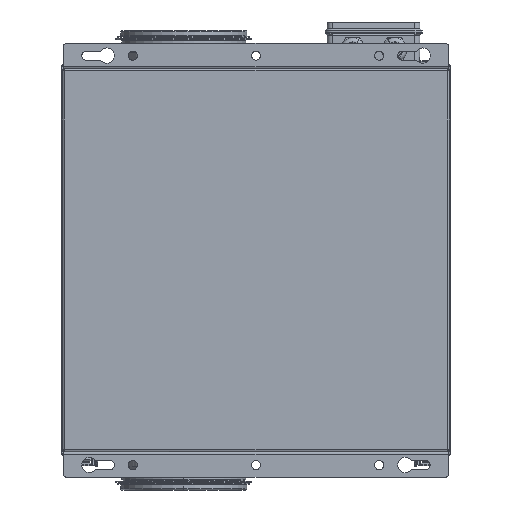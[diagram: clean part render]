
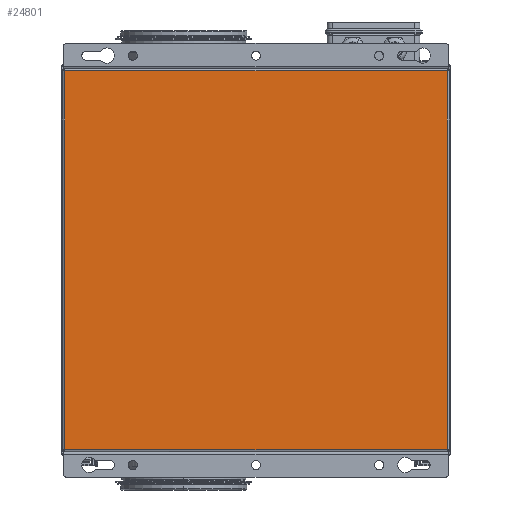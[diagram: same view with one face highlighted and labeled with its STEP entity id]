
A CAD part, front view. The second image highlights one B-rep face of the part: STEP entity #24801.
In plain terms, the highlighted planar face has unit normal (0, -1, 0).
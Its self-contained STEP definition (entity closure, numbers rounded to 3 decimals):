
#970 = LINE ( 'NONE', #25967, #10803 ) ;
#2117 = EDGE_CURVE ( 'NONE', #17106, #21051, #20443, .T. ) ;
#2929 = VECTOR ( 'NONE', #17880, 1000. ) ;
#5237 = EDGE_CURVE ( 'NONE', #8714, #6443, #29651, .T. ) ;
#5989 = EDGE_LOOP ( 'NONE', ( #11379, #21007, #23218, #19655 ) ) ;
#6443 = VERTEX_POINT ( 'NONE', #16759 ) ;
#6508 = CARTESIAN_POINT ( 'NONE',  ( 188., 0., 186. ) ) ;
#8416 = CARTESIAN_POINT ( 'NONE',  ( -188., 0., -186. ) ) ;
#8714 = VERTEX_POINT ( 'NONE', #6508 ) ;
#10803 = VECTOR ( 'NONE', #19198, 1000. ) ;
#11379 = ORIENTED_EDGE ( 'NONE', *, *, #2117, .T. ) ;
#12769 = DIRECTION ( 'NONE',  ( 0., 0., 1. ) ) ;
#15540 = LINE ( 'NONE', #15696, #29182 ) ;
#15696 = CARTESIAN_POINT ( 'NONE',  ( -188., 0., 188. ) ) ;
#16663 = EDGE_CURVE ( 'NONE', #6443, #17106, #15540, .T. ) ;
#16759 = CARTESIAN_POINT ( 'NONE',  ( -188., 0., 186. ) ) ;
#17106 = VERTEX_POINT ( 'NONE', #8416 ) ;
#17139 = FACE_OUTER_BOUND ( 'NONE', #5989, .T. ) ;
#17288 = CARTESIAN_POINT ( 'NONE',  ( -190., 0., 188. ) ) ;
#17813 = DIRECTION ( 'NONE',  ( 0., 0., -1. ) ) ;
#17880 = DIRECTION ( 'NONE',  ( 1., 0., 0. ) ) ;
#19198 = DIRECTION ( 'NONE',  ( 0., 0., 1. ) ) ;
#19655 = ORIENTED_EDGE ( 'NONE', *, *, #16663, .T. ) ;
#20443 = LINE ( 'NONE', #29762, #2929 ) ;
#21007 = ORIENTED_EDGE ( 'NONE', *, *, #26689, .T. ) ;
#21051 = VERTEX_POINT ( 'NONE', #23488 ) ;
#22125 = PLANE ( 'NONE',  #27895 ) ;
#23218 = ORIENTED_EDGE ( 'NONE', *, *, #5237, .T. ) ;
#23488 = CARTESIAN_POINT ( 'NONE',  ( 188., 0., -186. ) ) ;
#24223 = DIRECTION ( 'NONE',  ( 0., 1., 0. ) ) ;
#24801 = ADVANCED_FACE ( 'NONE', ( #17139 ), #22125, .F. ) ;
#25967 = CARTESIAN_POINT ( 'NONE',  ( 188., 0., -188. ) ) ;
#26660 = VECTOR ( 'NONE', #27537, 1000. ) ;
#26689 = EDGE_CURVE ( 'NONE', #21051, #8714, #970, .T. ) ;
#27537 = DIRECTION ( 'NONE',  ( -1., 0., 0. ) ) ;
#27693 = CARTESIAN_POINT ( 'NONE',  ( 188., 0., 186. ) ) ;
#27895 = AXIS2_PLACEMENT_3D ( 'NONE', #17288, #24223, #12769 ) ;
#29182 = VECTOR ( 'NONE', #17813, 1000. ) ;
#29651 = LINE ( 'NONE', #27693, #26660 ) ;
#29762 = CARTESIAN_POINT ( 'NONE',  ( -188., 0., -186. ) ) ;
